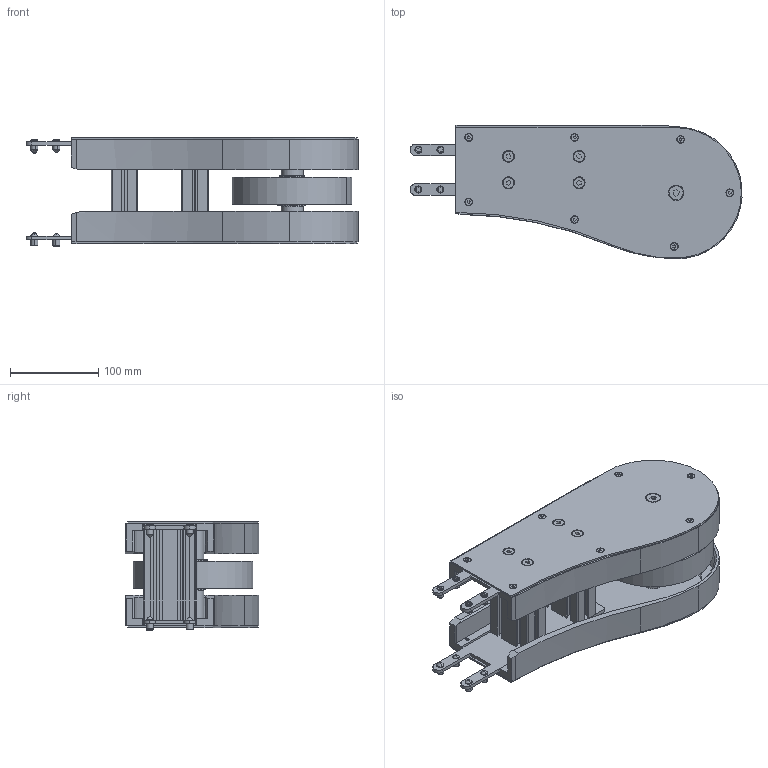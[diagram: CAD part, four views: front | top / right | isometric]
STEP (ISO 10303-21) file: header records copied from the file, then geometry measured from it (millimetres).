
FILE_DESCRIPTION (( 'STEP AP214' ), '1' );
FILE_NAME ('2000.450.200S.STEP', '2021-06-18T07:46:44', ( 'Localadmin' ), ( 'Microsoft' ), 'SwSTEP 2.0', 'SolidWorks 2018', '' );
FILE_SCHEMA (( 'AUTOMOTIVE_DESIGN' ));
Length unit declared in the file: millimetre
Products named in the file (15): VITI TSEI UNI 5933 INOX_0620UNI5933A2; VITI TSEI UNI 5933 INOX_0410UNI5933A2; GRANI A PUNTA CONICA UNI 5927 INOX_M8x14 UNI 5927 INOX; 25UNI7435_25UNI7435; 2000.325.206S; 2000.450.001; 2000.001.001; VITI TSEI UNI 5933 INOX_0820UNI5933A2; 2000.001.224; 2000.450.201-1S; 2000.001.220; 2000.001.221; 2000.450.200S; 2000.001.230; 2000.001.229
Assembly tree (46 placements, depth 2):
  2000.450.200S
    2000.001.221
    2000.001.220
    2000.450.201-1S
    2000.001.224  x2
    2000.001.001  x2
    2000.450.001  x2
    2000.325.206S
    25UNI7435_25UNI7435  x2
    GRANI A PUNTA CONICA UNI 5927 INOX_M8x14 UNI 5927 INOX  x8
    VITI TSEI UNI 5933 INOX_0410UNI5933A2  x14
    VITI TSEI UNI 5933 INOX_0620UNI5933A2  x8
    VITI TSEI UNI 5933 INOX_0820UNI5933A2  x2
    2000.001.229
    2000.001.230
Bounding box: 376.08 x 151.5 x 122.85 mm (x, y, z)
Volume: 1417968.1 mm3; surface area: 581334.8 mm2
Topology: 46 solids, 46 shells, 1146 faces, 2858 edges, 1838 vertices
Faces by surface type: plane 578, cylinder 372, cone 196
Entity records: 16216 total; most frequent: DIRECTION 2800, CARTESIAN_POINT 2641, ORIENTED_EDGE 2536, EDGE_CURVE 1268, AXIS2_PLACEMENT_3D 1015, VERTEX_POINT 832, VECTOR 770, LINE 770
